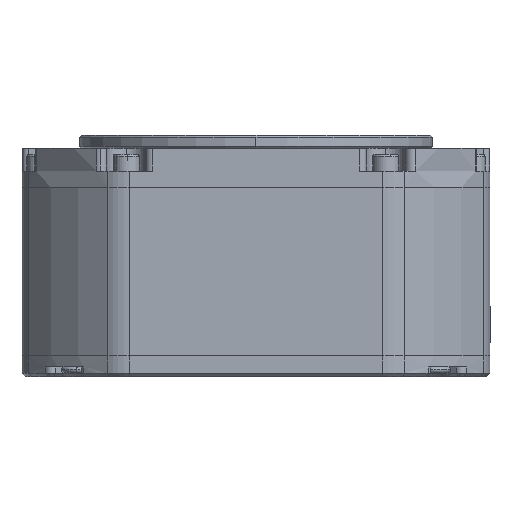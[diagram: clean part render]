
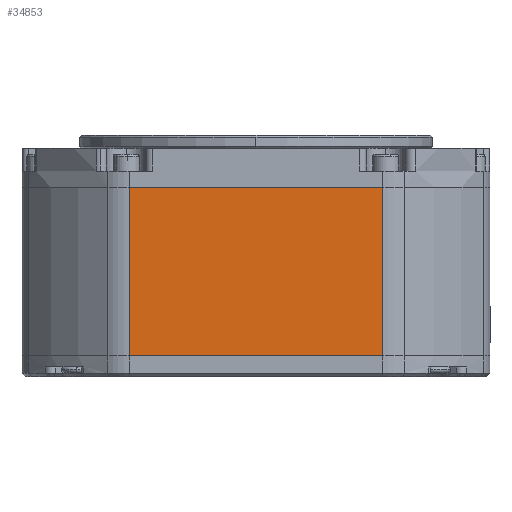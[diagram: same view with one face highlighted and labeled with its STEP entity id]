
A CAD part, left-side view. The second image highlights one B-rep face of the part: STEP entity #34853.
In plain terms, the highlighted planar face has unit normal (-1, 0, 0).
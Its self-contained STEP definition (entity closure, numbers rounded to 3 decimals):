
#135 = CARTESIAN_POINT ( 'NONE',  ( -35.75, -19.37, 17.5 ) ) ;
#1046 = DIRECTION ( 'NONE',  ( 0., 0., 1. ) ) ;
#1916 = VECTOR ( 'NONE', #14556, 1000. ) ;
#2954 = ORIENTED_EDGE ( 'NONE', *, *, #17420, .T. ) ;
#3530 = EDGE_CURVE ( 'NONE', #29381, #12265, #10877, .T. ) ;
#4106 = VERTEX_POINT ( 'NONE', #6472 ) ;
#5804 = AXIS2_PLACEMENT_3D ( 'NONE', #9902, #12415, #20644 ) ;
#6472 = CARTESIAN_POINT ( 'NONE',  ( -35.75, 19.37, -8.2 ) ) ;
#9293 = DIRECTION ( 'NONE',  ( 0., 0., -1. ) ) ;
#9332 = VECTOR ( 'NONE', #9293, 1000. ) ;
#9902 = CARTESIAN_POINT ( 'NONE',  ( -35.75, 35.75, 17.5 ) ) ;
#10440 = VERTEX_POINT ( 'NONE', #12111 ) ;
#10877 = LINE ( 'NONE', #21610, #30756 ) ;
#11897 = PLANE ( 'NONE',  #5804 ) ;
#12111 = CARTESIAN_POINT ( 'NONE',  ( -35.75, -19.37, -8.2 ) ) ;
#12265 = VERTEX_POINT ( 'NONE', #135 ) ;
#12415 = DIRECTION ( 'NONE',  ( 1., 0., 0. ) ) ;
#13082 = VECTOR ( 'NONE', #1046, 1000. ) ;
#13563 = ORIENTED_EDGE ( 'NONE', *, *, #32438, .T. ) ;
#14028 = LINE ( 'NONE', #27978, #1916 ) ;
#14556 = DIRECTION ( 'NONE',  ( 0., 1., 0. ) ) ;
#14934 = FACE_OUTER_BOUND ( 'NONE', #27450, .T. ) ;
#15353 = EDGE_CURVE ( 'NONE', #10440, #4106, #14028, .T. ) ;
#16423 = ORIENTED_EDGE ( 'NONE', *, *, #3530, .F. ) ;
#17089 = CARTESIAN_POINT ( 'NONE',  ( -35.75, 19.37, 17.5 ) ) ;
#17420 = EDGE_CURVE ( 'NONE', #10440, #12265, #30415, .T. ) ;
#17528 = LINE ( 'NONE', #33838, #9332 ) ;
#20644 = DIRECTION ( 'NONE',  ( 0., 0., -1. ) ) ;
#21610 = CARTESIAN_POINT ( 'NONE',  ( -35.75, 35.75, 17.5 ) ) ;
#27450 = EDGE_LOOP ( 'NONE', ( #13563, #30729, #2954, #16423 ) ) ;
#27978 = CARTESIAN_POINT ( 'NONE',  ( -35.75, 0., -8.2 ) ) ;
#29381 = VERTEX_POINT ( 'NONE', #17089 ) ;
#30415 = LINE ( 'NONE', #30956, #13082 ) ;
#30729 = ORIENTED_EDGE ( 'NONE', *, *, #15353, .F. ) ;
#30756 = VECTOR ( 'NONE', #32545, 1000. ) ;
#30956 = CARTESIAN_POINT ( 'NONE',  ( -35.75, -19.37, 17.5 ) ) ;
#32438 = EDGE_CURVE ( 'NONE', #29381, #4106, #17528, .T. ) ;
#32545 = DIRECTION ( 'NONE',  ( 0., -1., 0. ) ) ;
#33838 = CARTESIAN_POINT ( 'NONE',  ( -35.75, 19.37, 0. ) ) ;
#34853 = ADVANCED_FACE ( 'NONE', ( #14934 ), #11897, .F. ) ;
